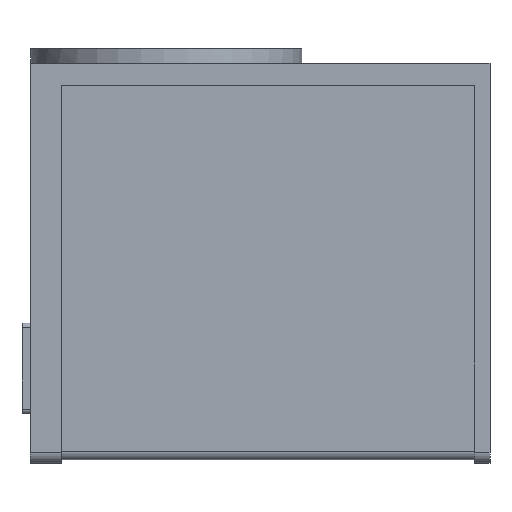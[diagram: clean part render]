
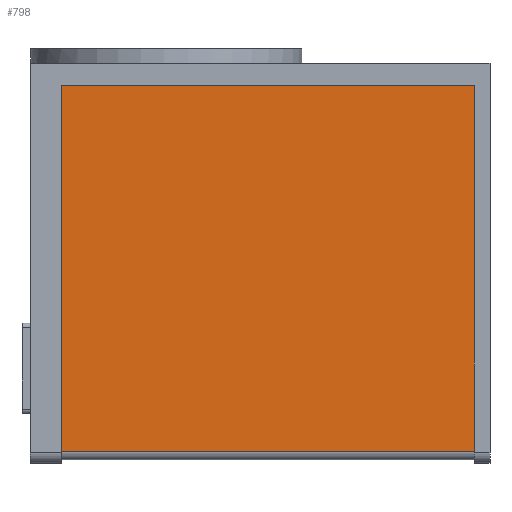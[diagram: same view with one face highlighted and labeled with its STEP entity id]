
A CAD part, front view. The second image highlights one B-rep face of the part: STEP entity #798.
In plain terms, the highlighted planar face has unit normal (0, -1, 0).
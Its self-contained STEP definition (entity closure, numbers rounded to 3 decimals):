
#798 = ADVANCED_FACE( '', ( #2241 ), #2242, .T. );
#2241 = FACE_OUTER_BOUND( '', #4673, .T. );
#2242 = PLANE( '', #4674 );
#4673 = EDGE_LOOP( '', ( #7432, #7433, #7434, #7435, #7436, #7437 ) );
#4674 = AXIS2_PLACEMENT_3D( '', #7438, #7439, #7440 );
#7432 = ORIENTED_EDGE( '', *, *, #12760, .T. );
#7433 = ORIENTED_EDGE( '', *, *, #12761, .T. );
#7434 = ORIENTED_EDGE( '', *, *, #12762, .T. );
#7435 = ORIENTED_EDGE( '', *, *, #12763, .T. );
#7436 = ORIENTED_EDGE( '', *, *, #12764, .T. );
#7437 = ORIENTED_EDGE( '', *, *, #12765, .T. );
#7438 = CARTESIAN_POINT( '', ( -73.66, -78.659, -123.122 ) );
#7439 = DIRECTION( '', ( 0., -1., 0. ) );
#7440 = DIRECTION( '', ( 0., 0., -1. ) );
#12760 = EDGE_CURVE( '', #15121, #15122, #15123, .T. );
#12761 = EDGE_CURVE( '', #15122, #15124, #15125, .T. );
#12762 = EDGE_CURVE( '', #15124, #15126, #15127, .T. );
#12763 = EDGE_CURVE( '', #15126, #15128, #15129, .T. );
#12764 = EDGE_CURVE( '', #15128, #15130, #15131, .T. );
#12765 = EDGE_CURVE( '', #15130, #15121, #15132, .T. );
#15121 = VERTEX_POINT( '', #18445 );
#15122 = VERTEX_POINT( '', #18446 );
#15123 = LINE( '', #18447, #18448 );
#15124 = VERTEX_POINT( '', #18449 );
#15125 = LINE( '', #18450, #18451 );
#15126 = VERTEX_POINT( '', #18452 );
#15127 = LINE( '', #18453, #18454 );
#15128 = VERTEX_POINT( '', #18455 );
#15129 = LINE( '', #18456, #18457 );
#15130 = VERTEX_POINT( '', #18458 );
#15131 = LINE( '', #18459, #18460 );
#15132 = LINE( '', #18461, #18462 );
#18445 = CARTESIAN_POINT( '', ( -73.66, -78.659, 45.23 ) );
#18446 = CARTESIAN_POINT( '', ( -73.66, -78.659, 43.73 ) );
#18447 = CARTESIAN_POINT( '', ( -73.66, -78.659, -123.122 ) );
#18448 = VECTOR( '', #22260, 1000. );
#18449 = CARTESIAN_POINT( '', ( -73.66, -78.659, -120.77 ) );
#18450 = CARTESIAN_POINT( '', ( -73.66, -78.659, -123.122 ) );
#18451 = VECTOR( '', #22261, 1000. );
#18452 = CARTESIAN_POINT( '', ( 115.74, -78.659, -120.77 ) );
#18453 = CARTESIAN_POINT( '', ( -73.66, -78.659, -120.77 ) );
#18454 = VECTOR( '', #22262, 1000. );
#18455 = CARTESIAN_POINT( '', ( 115.74, -78.659, 43.73 ) );
#18456 = CARTESIAN_POINT( '', ( 115.74, -78.659, -123.122 ) );
#18457 = VECTOR( '', #22263, 1000. );
#18458 = CARTESIAN_POINT( '', ( 115.74, -78.659, 45.23 ) );
#18459 = CARTESIAN_POINT( '', ( 115.74, -78.659, -123.122 ) );
#18460 = VECTOR( '', #22264, 1000. );
#18461 = CARTESIAN_POINT( '', ( 115.74, -78.659, 45.23 ) );
#18462 = VECTOR( '', #22265, 1000. );
#22260 = DIRECTION( '', ( 0., 0., -1. ) );
#22261 = DIRECTION( '', ( 0., 0., -1. ) );
#22262 = DIRECTION( '', ( 1., 0., 0. ) );
#22263 = DIRECTION( '', ( 0., 0., 1. ) );
#22264 = DIRECTION( '', ( 0., 0., 1. ) );
#22265 = DIRECTION( '', ( -1., 0., 0. ) );
